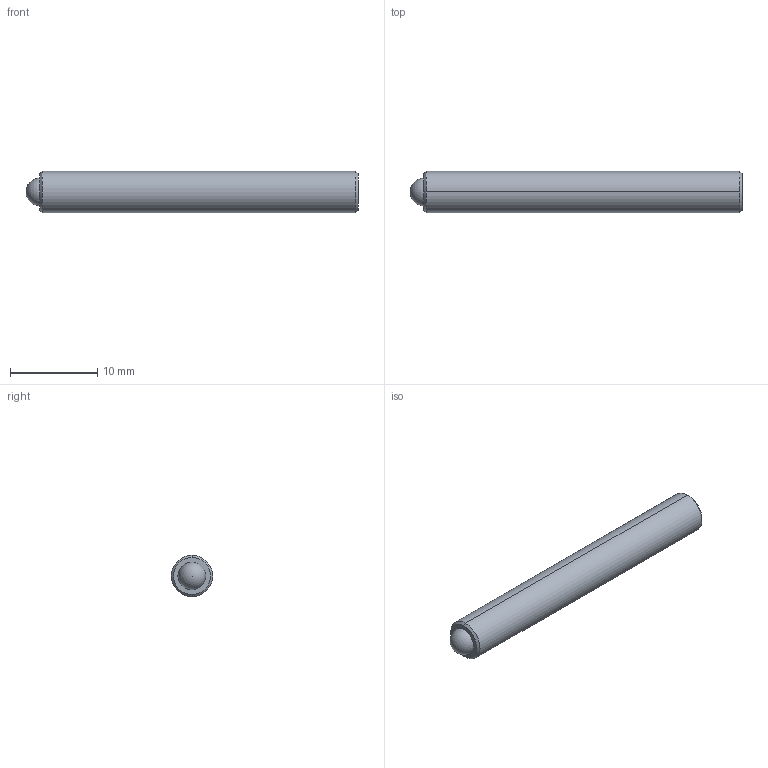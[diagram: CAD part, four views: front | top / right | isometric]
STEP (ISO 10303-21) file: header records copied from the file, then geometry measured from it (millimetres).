
FILE_DESCRIPTION (( 'STEP AP214' ), '1' );
FILE_NAME ('TS187-100-1500-HV.STEP', '2013-05-09T12:30:48', ( 'workpc' ), ( 'Microsoft' ), 'SwSTEP 2.0', 'SolidWorks 2013', '' );
FILE_SCHEMA (( 'AUTOMOTIVE_DESIGN' ));
Length unit declared in the file: inch
Products named in the file (1): TS187-100-1500-HV
Bounding box: 38.1 x 4.75 x 4.75 mm (x, y, z)
Volume: 642.4 mm3; surface area: 639 mm2
Topology: 2 solids, 2 shells, 24 faces, 57 edges, 37 vertices
Faces by surface type: plane 10, cylinder 8, cone 4, sphere 2
Entity records: 739 total; most frequent: DIRECTION 124, CARTESIAN_POINT 111, ORIENTED_EDGE 104, EDGE_CURVE 52, AXIS2_PLACEMENT_3D 47, VERTEX_POINT 34, LINE 30, VECTOR 30
